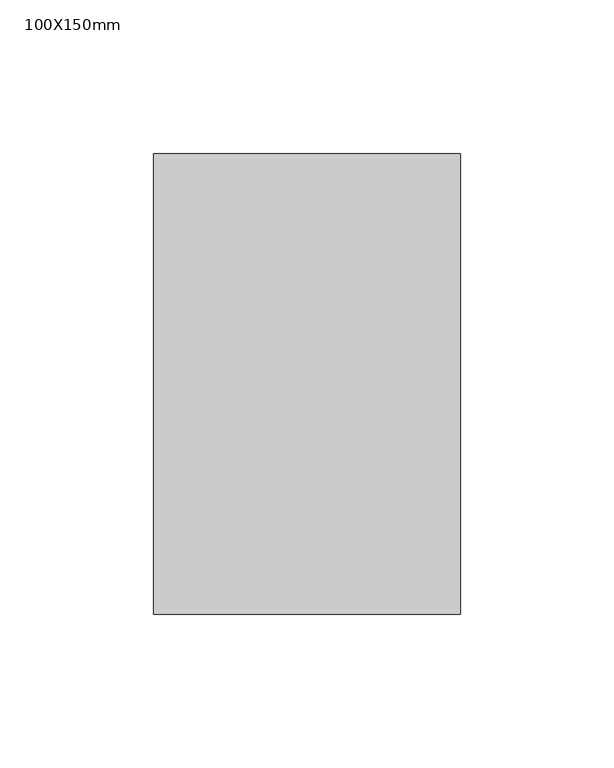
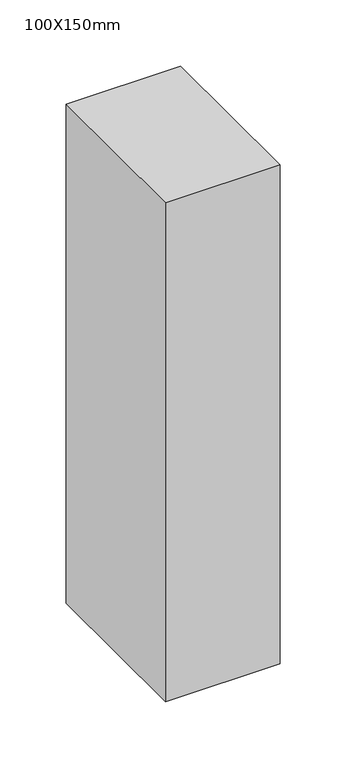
"""IFC4 building model written with IfcOpenShell, lengths in millimetres: member geometry, 矩形竖梃 : 100X150mm."""

import ifcopenshell
import ifcopenshell.guid

model = None  # the IFC model being written
_history = None  # IfcOwnerHistory: only IFC2X3 demands one
_inside = {}  # id of a spatial element -> (the spatial element, [elements in it])
_under = {}  # id of a project, library or spatial element -> (it, [spatial elements below it])
_declared = {}  # id of a project -> (the project, [libraries it declares])
_typed = {}  # id of a type object -> (the type object, [elements of that type])
_made_of = {}  # id of a material, layer set ... -> (it, [elements and type objects made of it])


def new_model(schema):
    """Start an empty IFC model of exactly this schema.

    Asked for "IFC4X3", IfcOpenShell would pick the latest addendum, in which some entities
    have other attributes; the version numbers below select the first issue.
    IFC2X3 requires an IfcOwnerHistory on every rooted entity: one is made here for all.
    """
    global model, _history
    if schema == "IFC4X3":
        model = ifcopenshell.file(schema_version=(4, 3, 0, 0))
    else:
        model = ifcopenshell.file(schema=schema)
    _inside.clear()
    _under.clear()
    _declared.clear()
    _typed.clear()
    _made_of.clear()
    _history = None
    if model.schema == "IFC2X3":
        org = make("IfcOrganization", Name="unknown")
        user = make(
            "IfcPersonAndOrganization",
            ThePerson=make("IfcPerson", FamilyName="unknown"),
            TheOrganization=org,
        )
        app = make(
            "IfcApplication",
            ApplicationDeveloper=org,
            Version="unknown",
            ApplicationFullName="unknown",
            ApplicationIdentifier="unknown",
        )
        _history = make(
            "IfcOwnerHistory",
            OwningUser=user,
            OwningApplication=app,
            ChangeAction="ADDED",
            CreationDate=0,
        )
    return model


def make(cls, **values):
    """One entity of the class cls with the attributes given. An attribute that is None is left unset."""
    return model.create_entity(
        cls, **{name: value for name, value in values.items() if value is not None}
    )


def rooted(cls, **values):
    """An entity with a GlobalId (a new one), such as an element, a storey or a relation."""
    return make(cls, GlobalId=ifcopenshell.guid.new(), OwnerHistory=_history, **values)


def si_unit(unit_type, name, prefix=None):
    """IfcSIUnit, for example si_unit("LENGTHUNIT", "METRE", prefix="MILLI")."""
    return make("IfcSIUnit", UnitType=unit_type, Prefix=prefix, Name=name)


def assignment(units):
    """IfcUnitAssignment: the units of a project."""
    return None if units is None else make("IfcUnitAssignment", Units=units)


def point(xyz):
    """IfcCartesianPoint."""
    return None if xyz is None else make("IfcCartesianPoint", Coordinates=xyz)


def direction(xyz):
    """IfcDirection."""
    return None if xyz is None else make("IfcDirection", DirectionRatios=xyz)


def frame(location, z_axis=None, x_axis=None):
    """IfcAxis2Placement3D, a coordinate frame: its origin and axes. An axis left out is left unset."""
    return make(
        "IfcAxis2Placement3D",
        Location=point(location),
        Axis=direction(z_axis),
        RefDirection=direction(x_axis),
    )


def origin():
    """The frame at (0, 0, 0) with its axes left unset."""
    return frame((0.0, 0.0, 0.0))


def place(relative_to, where):
    """IfcLocalPlacement: puts the frame where relative to a parent placement (None: the world)."""
    return make(
        "IfcLocalPlacement", PlacementRelTo=relative_to, RelativePlacement=where
    )


def context(
    kind, dimensions, precision=None, world=None, true_north=None, identifier=None
):
    """IfcGeometricRepresentationContext, for example the 3D "Model" context."""
    return make(
        "IfcGeometricRepresentationContext",
        ContextIdentifier=identifier,
        ContextType=kind,
        CoordinateSpaceDimension=dimensions,
        Precision=precision,
        WorldCoordinateSystem=world,
        TrueNorth=true_north,
    )


def project(units=None, contexts=None):
    """IfcProject with its units and contexts."""
    return rooted(
        "IfcProject",
        Name="project",
        RepresentationContexts=contexts,
        UnitsInContext=assignment(units),
    )


def spatial(cls, under=None, at=None, **own):
    """A site, building, storey or space (cls), placed at a placement, below another one or the project."""
    s = rooted(cls, ObjectPlacement=at, **own)
    if under is not None:
        _under.setdefault(under.id(), (under, []))[1].append(s)
    return s


def polyline(points):
    """IfcPolyline through the points."""
    return make("IfcPolyline", Points=[point(p) for p in points])


def outline(outer, holes=None, kind="AREA"):
    """IfcArbitraryClosedProfileDef: a profile drawn as a closed curve; with holes, ...WithVoids."""
    if holes is None:
        return make("IfcArbitraryClosedProfileDef", ProfileType=kind, OuterCurve=outer)
    return make(
        "IfcArbitraryProfileDefWithVoids",
        ProfileType=kind,
        OuterCurve=outer,
        InnerCurves=holes,
    )


def extrude(swept, where, along, depth):
    """IfcExtrudedAreaSolid: the profile swept, set in the frame where, extruded along a direction by depth."""
    return make(
        "IfcExtrudedAreaSolid",
        SweptArea=swept,
        Position=where,
        ExtrudedDirection=direction(along),
        Depth=depth,
    )


def shape(context_of_items, identifier, shape_type, items):
    """IfcShapeRepresentation: the items that make up one representation, for example the "Body"."""
    return make(
        "IfcShapeRepresentation",
        ContextOfItems=context_of_items,
        RepresentationIdentifier=identifier,
        RepresentationType=shape_type,
        Items=items,
    )


def source(mapping_origin, context_of_items, identifier, shape_type, items):
    """IfcRepresentationMap: a shape defined once, which mapped items show again and again."""
    return make(
        "IfcRepresentationMap",
        MappingOrigin=mapping_origin,
        MappedRepresentation=shape(context_of_items, identifier, shape_type, items),
    )


def transform(
    local_origin,
    x_axis=None,
    y_axis=None,
    z_axis=None,
    scale=None,
    scale2=None,
    scale3=None,
    uniform=True,
):
    """IfcCartesianTransformationOperator3D, or its non-uniform kind. x_axis, y_axis, z_axis: its Axis1, 2, 3."""
    if uniform:
        return make(
            "IfcCartesianTransformationOperator3D",
            Axis1=direction(x_axis),
            Axis2=direction(y_axis),
            LocalOrigin=point(local_origin),
            Scale=scale,
            Axis3=direction(z_axis),
        )
    return make(
        "IfcCartesianTransformationOperator3DnonUniform",
        Axis1=direction(x_axis),
        Axis2=direction(y_axis),
        LocalOrigin=point(local_origin),
        Scale=scale,
        Axis3=direction(z_axis),
        Scale2=scale2,
        Scale3=scale3,
    )


def mapped(mapping_source, mapping_target):
    """IfcMappedItem: shows the shape of a source again, moved by a transform."""
    return make(
        "IfcMappedItem", MappingSource=mapping_source, MappingTarget=mapping_target
    )


def made_of(thing, what):
    """Note that an element or type object is made of a material, layer set ...; save() writes the relation."""
    if what is not None:
        _made_of.setdefault(what.id(), (what, []))[1].append(thing)
    return thing


def element(
    cls,
    number,
    at=None,
    inside=None,
    cuts=None,
    type_object=None,
    material=None,
    context=None,
    identifier="Body",
    shape_type=None,
    held_by="IfcProductDefinitionShape",
    body=None,
    shapes=None,
    **own,
):
    """One element of the class cls, such as IfcWall. Its Tag is "e" and its number.

    at: its placement. inside: the storey or other place that contains it. cuts: it is an
    opening in that element (IfcRelVoidsElement). A single representation is given by context,
    identifier, shape_type and body (its items); several are given by shapes. held_by: the class
    of the entity that holds the representations. save() writes the other relations.
    """
    e = rooted(cls, Tag="e%d" % number, ObjectPlacement=at, **own)
    if body is not None:
        shapes = [shape(context, identifier, shape_type, body)]
    if shapes is not None:
        e.Representation = make(held_by, Representations=shapes)
    if inside is not None:
        _inside.setdefault(inside.id(), (inside, []))[1].append(e)
    if cuts is not None:
        rooted(
            "IfcRelVoidsElement", RelatingBuildingElement=cuts, RelatedOpeningElement=e
        )
    if type_object is not None:
        _typed.setdefault(type_object.id(), (type_object, []))[1].append(e)
    return made_of(e, material)


def aggregate(whole, parts):
    """IfcRelAggregates: a whole, such as a stair, and the parts it consists of."""
    return rooted("IfcRelAggregates", RelatingObject=whole, RelatedObjects=parts)


def save(model, path):
    """Write the relations noted so far, then the file.

    IfcRelAggregates (storeys below a building ...), IfcRelContainedInSpatialStructure (elements
    in a storey), IfcRelDefinesByType, IfcRelAssociatesMaterial and IfcRelDeclares: one each for
    every whole, place, type object, material and project.
    """
    for whole, parts in _under.values():
        aggregate(whole, parts)
    for where, things in _inside.values():
        rooted(
            "IfcRelContainedInSpatialStructure",
            RelatedElements=things,
            RelatingStructure=where,
        )
    for kind, things in _typed.values():
        rooted("IfcRelDefinesByType", RelatedObjects=things, RelatingType=kind)
    for what, things in _made_of.values():
        rooted("IfcRelAssociatesMaterial", RelatedObjects=things, RelatingMaterial=what)
    for by, libraries in _declared.values():
        rooted("IfcRelDeclares", RelatingContext=by, RelatedDefinitions=libraries)
    model.write(path)


def member_100x150mm_603da3bf(model_context):
    return source(origin(), model_context, "Body", "SweptSolid", [
        extrude(outline(polyline([(50.0, 75.0), (50.0, -75.0), (-50.0, -75.0), (-50.0, 75.0), (50.0, 75.0)])), frame((0.0, 0.0, -460.0), z_axis=(0.0, 0.0, 1.0), x_axis=(1.0, 0.0, 0.0)), (0.0, 0.0, 1.0), 460.0),
    ])


if __name__ == "__main__":
    model = new_model("IFC4")
    model_context = context("Model", 3, world=origin())
    ifc_project = project(units=[si_unit("LENGTHUNIT", "METRE", prefix="MILLI")], contexts=[model_context])
    site = spatial("IfcSite", under=ifc_project)
    building = spatial("IfcBuilding", under=site)
    placement = place(None, origin())
    member_100x150mm_shape = member_100x150mm_603da3bf(model_context)
    element("IfcMember", 1, ObjectType="矩形竖梃 : 100X150mm", at=placement, inside=building, context=model_context, shape_type="MappedRepresentation", body=[
        mapped(member_100x150mm_shape, transform((0.0, 0.0, 0.0), x_axis=(1.0, 0.0, 0.0), y_axis=(0.0, 1.0, 0.0), z_axis=(0.0, 0.0, 1.0))),
    ])
    save(model, "model.ifc")
